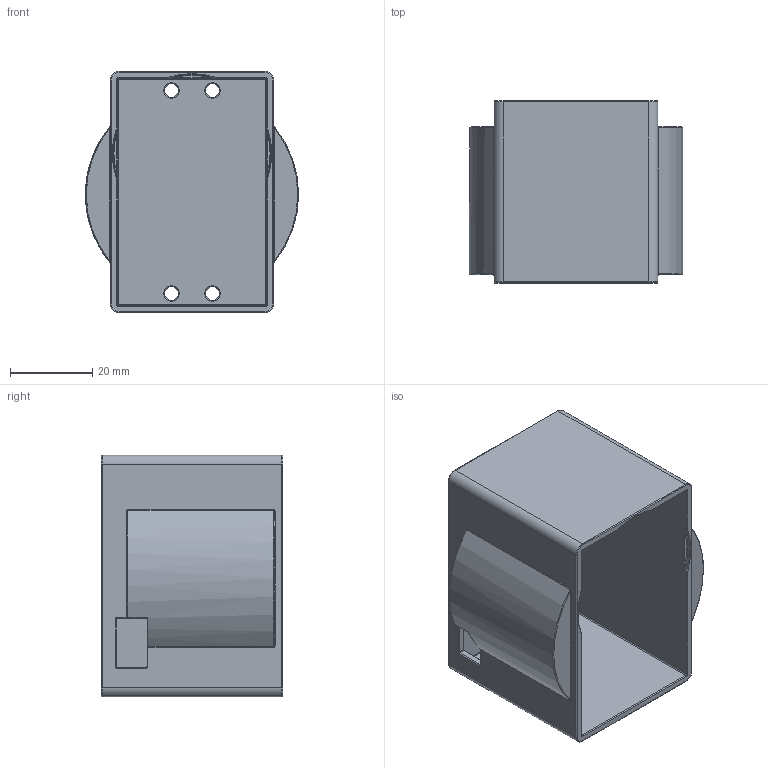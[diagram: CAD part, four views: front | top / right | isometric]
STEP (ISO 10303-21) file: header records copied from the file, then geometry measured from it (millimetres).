
FILE_DESCRIPTION(('Open CASCADE Model'),'2;1');
FILE_NAME('Open CASCADE Shape Model','2026-11-06T19:20:58',('Author'),( 'Open CASCADE'),'Open CASCADE STEP processor 8.0','Open CASCADE 8.0' ,'Unknown');
FILE_SCHEMA(('AUTOMOTIVE_DESIGN { 1 0 10303 214 1 1 1 1 }'));
Length unit declared in the file: millimetre
Products named in the file (1): Open CASCADE STEP translator 8.0 1
Bounding box: 52 x 44.3 x 58.9 mm (x, y, z)
Volume: 28207.2 mm3; surface area: 21602 mm2
Topology: 1 solids, 1 shells, 154 faces, 350 edges, 189 vertices
Faces by surface type: cylinder 67, torus 40, plane 22, bspline 14, sphere 11
Full cylindrical faces by diameter (mm): 3.4 x4
Entity records: 10614 total; most frequent: CARTESIAN_POINT 4129, DIRECTION 1155, ORIENTED_EDGE 678, PCURVE 678, DEFINITIONAL_REPRESENTATION 678, LINE 530, VECTOR 530, EDGE_CURVE 339
